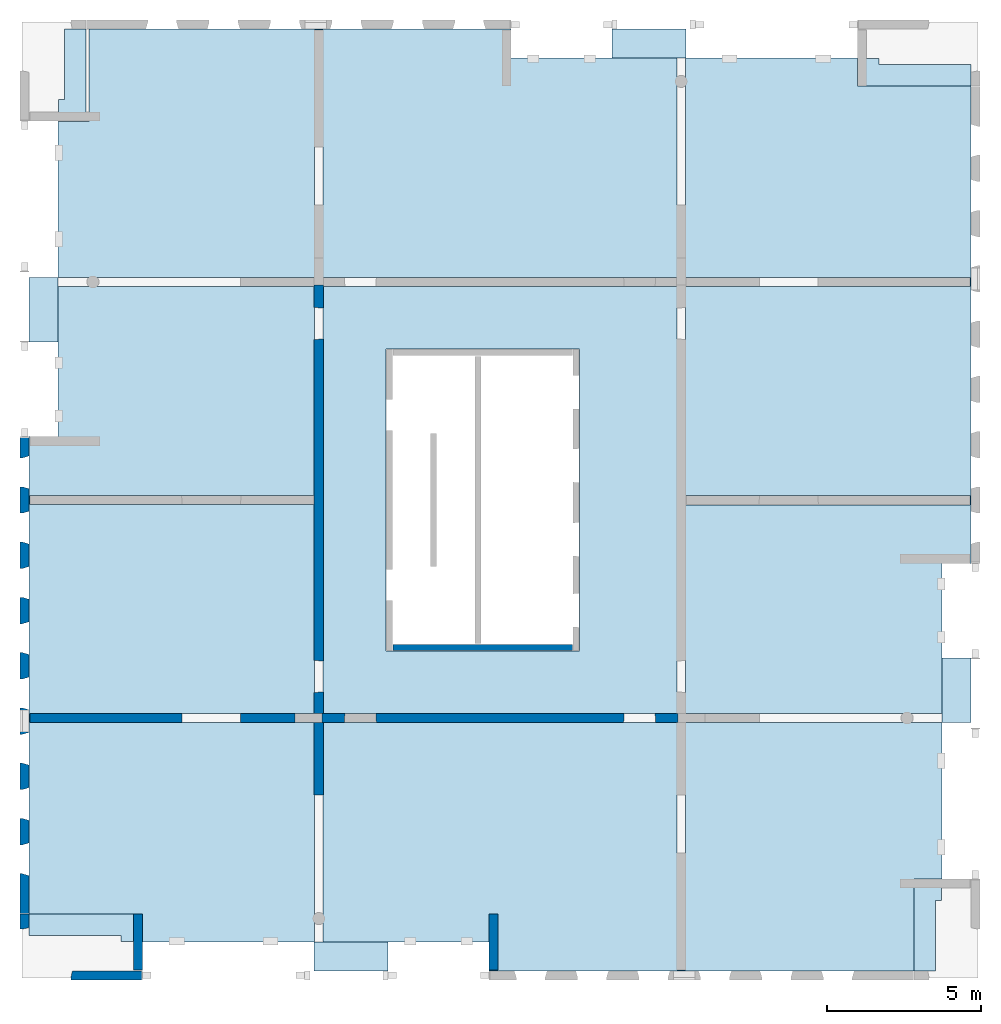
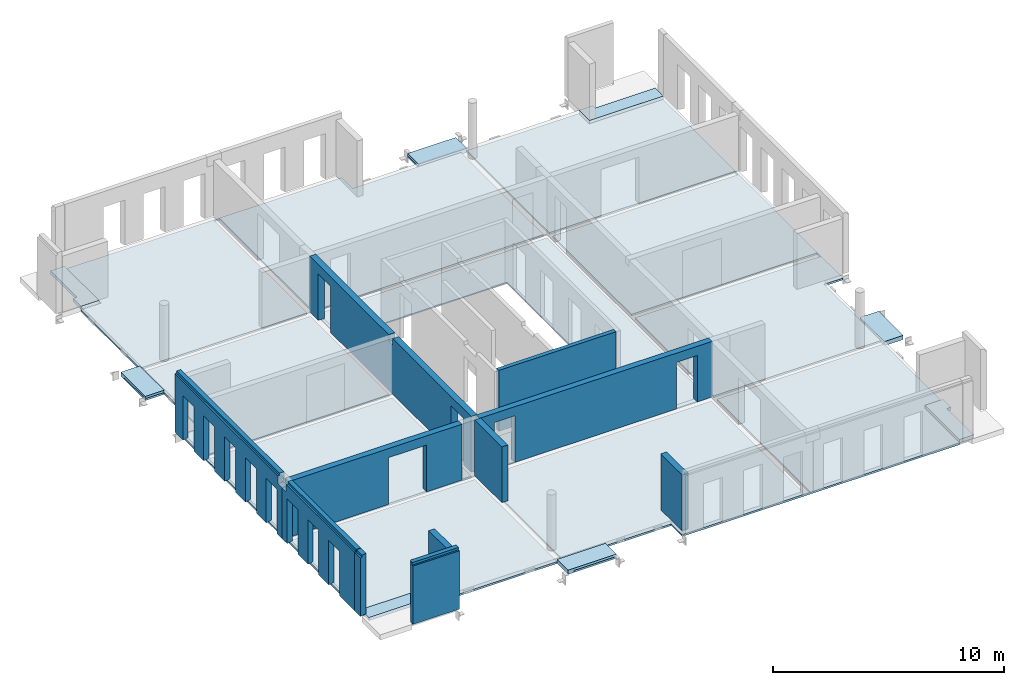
# One storey, part 2 of 6: 13 slabs, 11 walls, 23 openings.
"""IFC2X3 building model written with IfcOpenShell, lengths in millimetres."""

from ifc_helpers import new_model, entity, si_unit, converted_unit, derived_unit, direction, frame, frame_2d, origin, origin_2d_with_axis, place, context, subcontext, project, spatial, polyline, rectangle, outline, extrude, faceted_brep, material, layer, layer_set, layer_usage, type_object, element, save


model = new_model("IFC2X3")

# Units and contexts
model_context = context("Model", 3, precision=0.01, world=origin(), true_north=direction((6.12303176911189e-17, 1.0)))
body_context = subcontext(model_context, "Body", "Model", "MODEL_VIEW")
ifc_project = project(units=[si_unit("LENGTHUNIT", "METRE", prefix="MILLI"), si_unit("AREAUNIT", "SQUARE_METRE"), si_unit("VOLUMEUNIT", "CUBIC_METRE"), converted_unit("PLANEANGLEUNIT", "DEGREE", entity("IfcRatioMeasure", 0.0174532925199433), si_unit("PLANEANGLEUNIT", "RADIAN"), dimensions=[0, 0, 0, 0, 0, 0, 0]), si_unit("MASSUNIT", "GRAM", prefix="KILO"), derived_unit("MASSDENSITYUNIT", [(si_unit("MASSUNIT", "GRAM", prefix="KILO"), 1), (si_unit("LENGTHUNIT", "METRE"), -3)]), si_unit("TIMEUNIT", "SECOND"), si_unit("FREQUENCYUNIT", "HERTZ"), si_unit("THERMODYNAMICTEMPERATUREUNIT", "DEGREE_CELSIUS"), derived_unit("THERMALTRANSMITTANCEUNIT", [(si_unit("MASSUNIT", "GRAM", prefix="KILO"), 1), (si_unit("THERMODYNAMICTEMPERATUREUNIT", "KELVIN"), -1), (si_unit("TIMEUNIT", "SECOND"), -3)]), derived_unit("VOLUMETRICFLOWRATEUNIT", [(si_unit("LENGTHUNIT", "METRE"), 3), (si_unit("TIMEUNIT", "SECOND"), -1)]), si_unit("ELECTRICCURRENTUNIT", "AMPERE"), si_unit("ELECTRICVOLTAGEUNIT", "VOLT"), si_unit("POWERUNIT", "WATT"), si_unit("FORCEUNIT", "NEWTON", prefix="KILO"), si_unit("ILLUMINANCEUNIT", "LUX"), si_unit("LUMINOUSFLUXUNIT", "LUMEN"), si_unit("LUMINOUSINTENSITYUNIT", "CANDELA"), derived_unit("USERDEFINED", [(si_unit("MASSUNIT", "GRAM", prefix="KILO"), -1), (si_unit("LENGTHUNIT", "METRE"), -2), (si_unit("TIMEUNIT", "SECOND"), 3), (si_unit("LUMINOUSFLUXUNIT", "LUMEN"), 1)]), derived_unit("LINEARVELOCITYUNIT", [(si_unit("LENGTHUNIT", "METRE"), 1), (si_unit("TIMEUNIT", "SECOND"), -1)]), si_unit("PRESSUREUNIT", "PASCAL"), derived_unit("USERDEFINED", [(si_unit("LENGTHUNIT", "METRE"), -2), (si_unit("MASSUNIT", "GRAM", prefix="KILO"), 1), (si_unit("TIMEUNIT", "SECOND"), -2)])], contexts=[model_context])

# Site, building, storey
site_placement = place(None, origin())
site = spatial("IfcSite", under=ifc_project, at=site_placement, Name="Default", CompositionType="ELEMENT")
building_placement = place(site_placement, origin())
building = spatial("IfcBuilding", under=site, at=building_placement, Name="niet gebruiken", CompositionType="ELEMENT")
storey_placement = place(building_placement, frame((0.0, 0.0, 161820.0)))
storey = spatial("IfcBuildingStorey", under=building, at=storey_placement, Name="52 tweeënvijftigste verdieping", CompositionType="ELEMENT", Elevation=161820.0)

# Slabs
ifc_material_1 = material(Name="NLRS_f2_beton ihwg")
ifc_layer_1 = layer(ifc_material_1, 170.0)
ifc_layer_set_1 = layer_set([ifc_layer_1], Name="Floor:NLRS_23.21_FL_beton ihwg d=170_gen")
ifc_layer_usage_1 = layer_usage(ifc_layer_set_1, "AXIS3", "POSITIVE", 0.0)
slab_1_placement = place(storey_placement, origin())
element("IfcSlab", 1, at=slab_1_placement, inside=storey, material=ifc_layer_usage_1, Name="Floor:NLRS_23.21_FL_beton ihwg d=170_gen", ObjectType="Floor:NLRS_23.21_FL_beton ihwg d=170_gen", PredefinedType="FLOOR", context=body_context, shape_type="SweptSolid", body=[
    extrude(outline(polyline([(-1230.0, -366.666666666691), (-530.0, -366.666666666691), (-530.0, -166.666666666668), (1760.0, -166.666666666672), (1760.0, 533.333333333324), (-1230.0, 533.333333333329), (-1230.0, -366.666666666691)])), frame((127736.666666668, 31070.0, -90.0), z_axis=(0.0, 0.0, -1.0), x_axis=(0.0, 1.0, 0.0)), (0.0, 0.0, 1.0), 169.999999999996),
])
ifc_layer_usage_2 = layer_usage(ifc_layer_set_1, "AXIS3", "POSITIVE", 0.0)
slab_2_placement = place(storey_placement, origin())
element("IfcSlab", 2, at=slab_2_placement, inside=storey, material=ifc_layer_usage_2, Name="Floor:NLRS_23.21_FL_beton ihwg d=170_gen", ObjectType="Floor:NLRS_23.21_FL_beton ihwg d=170_gen", PredefinedType="FLOOR", context=body_context, shape_type="SweptSolid", body=[
    extrude(outline(polyline([(-1760.0, -533.33333333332), (1230.0, -533.33333333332), (1230.0, 366.666666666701), (530.0, 366.666666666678), (530.0, 166.666666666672), (-1760.0, 166.666666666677), (-1760.0, -533.33333333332)])), frame((155763.333333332, 3930.0, -90.0), z_axis=(0.0, 0.0, -1.0), x_axis=(0.0, 1.0, 0.0)), (0.0, 0.0, 1.0), 169.999999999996),
])
ifc_layer_usage_3 = layer_usage(ifc_layer_set_1, "AXIS3", "POSITIVE", 0.0)
slab_3_placement = place(storey_placement, origin())
element("IfcSlab", 3, at=slab_3_placement, inside=storey, material=ifc_layer_usage_3, Name="Floor:NLRS_23.21_FL_beton ihwg d=170_gen", ObjectType="Floor:NLRS_23.21_FL_beton ihwg d=170_gen", PredefinedType="FLOOR", context=body_context, shape_type="SweptSolid", body=[
    extrude(outline(polyline([(-166.666666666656, -2226.66666666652), (533.333333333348, -2226.66666666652), (533.333333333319, 1463.3333333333), (-366.666666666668, 1463.33333333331), (-366.666666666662, 763.333333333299), (-166.666666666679, 763.333333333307), (-166.666666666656, -2226.66666666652)])), frame((128646.666666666, 3486.66666667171, -90.0), z_axis=(0.0, 0.0, -1.0), x_axis=(0.0, 1.0, 0.0)), (0.0, 0.0, 1.0), 169.999999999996),
])
ifc_layer_usage_4 = layer_usage(ifc_layer_set_1, "AXIS3", "POSITIVE", 0.0)
slab_4_placement = place(storey_placement, origin())
element("IfcSlab", 4, at=slab_4_placement, inside=storey, material=ifc_layer_usage_4, Name="Floor:NLRS_23.21_FL_beton ihwg d=170_gen", ObjectType="Floor:NLRS_23.21_FL_beton ihwg d=170_gen", PredefinedType="FLOOR", context=body_context, shape_type="SweptSolid", body=[
    extrude(outline(polyline([(-533.33333333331, -1463.33333333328), (366.666666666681, -1463.33333333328), (366.666666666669, -763.333333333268), (166.666666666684, -763.333333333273), (166.666666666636, 2226.66666666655), (-533.333333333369, 2226.66666666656), (-533.33333333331, -1463.33333333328)])), frame((154853.333333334, 31513.3333333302, -90.0), z_axis=(0.0, 0.0, -1.0), x_axis=(0.0, 1.0, 0.0)), (0.0, 0.0, 1.0), 169.999999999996),
])

# Slab, opening
ifc_material_2 = material(Name="NLRS_f2_beton prefab")
ifc_layer_2 = layer(ifc_material_2, 60.0)
ifc_layer_set_2 = layer_set([ifc_layer_2], Name="Floor:NLRS_23.21_FL_breedplaat d=60_gen")
ifc_layer_usage_5 = layer_usage(ifc_layer_set_2, "AXIS3", "POSITIVE", 0.0)
slab_5_placement = place(storey_placement, frame((135990.0, 10540.0, -320.0)))
slab_5 = element("IfcSlab", 5, at=slab_5_placement, inside=storey, material=ifc_layer_usage_5, Name="Floor:NLRS_23.21_FL_breedplaat d=60_gen", ObjectType="Floor:NLRS_23.21_FL_breedplaat d=60_gen", PredefinedType="FLOOR", context=body_context, shape_type="SweptSolid", body=[
    extrude(rectangle(XDim=13919.9999999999, YDim=11520.0, at=frame_2d((0.0, 0.0), x_axis=(0.0, -1.0))), frame((5760.0, 6960.0, 60.0), z_axis=(0.0, 0.0, -1.0), x_axis=(-1.0, 0.0, 0.0)), (0.0, 0.0, 1.0), 59.9999999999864),
])
opening_1_placement = place(slab_5_placement, frame((5200.0, 6960.0, 60.0)))
element("IfcOpeningElement", 6, at=opening_1_placement, cuts=slab_5, Name="Floor:NLRS_23.21_FL_breedplaat d=60_gen:2", ObjectType="Opening", context=body_context, shape_type="SweptSolid", body=[
    extrude(rectangle(XDim=9820.0, YDim=6299.99999999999, at=origin_2d_with_axis()), frame((0.0, 0.0, 0.0), z_axis=(0.0, 0.0, -1.0), x_axis=(0.0, -1.0, 0.0)), (0.0, 0.0, 1.0), 59.9999999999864),
])

# Slabs
ifc_layer_3 = layer(ifc_material_2, 100.0)
ifc_layer_set_3 = layer_set([ifc_layer_3], Name="Floor:NLRS_23.21_FL_breedplaat d=100_gen")
ifc_layer_usage_6 = layer_usage(ifc_layer_set_3, "AXIS3", "POSITIVE", 0.0)
slab_6_placement = place(storey_placement, frame((126420.0, 2170.0, -360.0)))
element("IfcSlab", 7, at=slab_6_placement, inside=storey, material=ifc_layer_usage_6, Name="Floor:NLRS_23.21_FL_breedplaat d=100_gen", ObjectType="Floor:NLRS_23.21_FL_breedplaat d=100_gen", PredefinedType="FLOOR", context=body_context, shape_type="SweptSolid", body=[
    extrude(outline(polyline([(14385.0, 7240.0), (14385.0, 12330.0), (13380.0, 12330.0), (13380.0, 15330.0), (-360.0, 15330.0), (-360.0, 14385.0), (-3640.0, 14385.0), (-3640.0, 15330.0), (-5760.0, 15330.0), (-5760.0, 7240.0), (5760.0, 7240.0), (5760.0, 15300.0), (6040.0, 15300.0), (6040.0, 7240.0), (14385.0, 7240.0)])), frame((15330.0, 15330.0, 100.0), z_axis=(0.0, 0.0, -1.0), x_axis=(-1.0, 0.0, 0.0)), (0.0, 0.0, 1.0), 100.000000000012),
])
slab_7_placement = place(storey_placement, frame((126420.0, 2170.0, -360.0)))
element("IfcSlab", 8, at=slab_7_placement, inside=storey, material=ifc_layer_usage_6, Name="Floor:NLRS_23.21_FL_breedplaat d=100_gen:2", ObjectType="Floor:NLRS_23.21_FL_breedplaat d=100_gen", PredefinedType="FLOOR", context=body_context, shape_type="SweptSolid", body=[
    extrude(outline(polyline([(15330.0, 2060.0), (14385.0, 2060.0), (14385.0, 5140.0), (15330.0, 5140.0), (15330.0, 6960.0), (6040.0, 6960.0), (6040.0, 140.0), (15300.0, 140.0), (15300.0, -140.0), (6040.0, -140.0), (6040.0, -6960.0), (15300.0, -6960.0), (15300.0, -7240.0), (6040.0, -7240.0), (6040.0, -14385.0), (11640.0, -14385.0), (11640.0, -13480.0), (15330.0, -13480.0), (15330.0, 2060.0)])), frame((15330.0, 15330.0, 100.0), z_axis=(0.0, 0.0, -1.0), x_axis=(-1.0, 0.0, 0.0)), (0.0, 0.0, 1.0), 100.000000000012),
])
slab_8_placement = place(storey_placement, frame((126420.0, 2170.0, -360.0)))
element("IfcSlab", 9, at=slab_8_placement, inside=storey, material=ifc_layer_usage_6, Name="Floor:NLRS_23.21_FL_breedplaat d=100_gen:3", ObjectType="Floor:NLRS_23.21_FL_breedplaat d=100_gen", PredefinedType="FLOOR", context=body_context, shape_type="SweptSolid", body=[
    extrude(outline(polyline([(360.0, -15330.0), (360.0, -14385.0), (3640.0, -14385.0), (3640.0, -15330.0), (5760.0, -15330.0), (5760.0, -7240.0), (-5760.0, -7240.0), (-5760.0, -15300.0), (-6040.0, -15300.0), (-6040.0, -7240.0), (-14385.0, -7240.0), (-14385.0, -12340.0), (-13480.0, -12340.0), (-13480.0, -15330.0), (360.0, -15330.0)])), frame((15330.0, 15330.0, 100.0), z_axis=(0.0, 0.0, -1.0), x_axis=(-1.0, 0.0, 0.0)), (0.0, 0.0, 1.0), 100.000000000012),
])
slab_9_placement = place(storey_placement, frame((126420.0, 2170.0, -360.0)))
element("IfcSlab", 10, at=slab_9_placement, inside=storey, material=ifc_layer_usage_6, Name="Floor:NLRS_23.21_FL_breedplaat d=100_gen:4", ObjectType="Floor:NLRS_23.21_FL_breedplaat d=100_gen", PredefinedType="FLOOR", context=body_context, shape_type="SweptSolid", body=[
    extrude(outline(polyline([(-15330.0, -2060.0), (-14385.0, -2060.0), (-14385.0, -5140.0), (-15330.0, -5140.0), (-15330.0, -6960.0), (-6040.0, -6960.0), (-6040.0, -160.0), (-15300.0, -160.0), (-15300.0, 140.0), (-6040.0, 140.0), (-6040.0, 6960.0), (-15300.0, 6960.0), (-15300.0, 7240.0), (-6040.0, 7240.0), (-6040.0, 14385.0), (-11640.0, 14385.0), (-11640.0, 13480.0), (-15330.0, 13480.0), (-15330.0, -2060.0)])), frame((15330.0, 15330.0, 100.0), z_axis=(0.0, 0.0, -1.0), x_axis=(-1.0, 0.0, 0.0)), (0.0, 0.0, 1.0), 100.000000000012),
])
ifc_layer_4 = layer(ifc_material_1, 220.0)
ifc_layer_set_4 = layer_set([ifc_layer_4], Name="Floor:NLRS_23.21_FL_beton ihwg d=220_gen")
ifc_layer_usage_7 = layer_usage(ifc_layer_set_4, "AXIS3", "POSITIVE", 0.0)
slab_10_placement = place(storey_placement, origin())
element("IfcSlab", 11, at=slab_10_placement, inside=storey, material=ifc_layer_usage_7, Name="Floor:NLRS_23.21_FL_beton ihwg d=220_gen", ObjectType="Floor:NLRS_23.21_FL_beton ihwg d=220_gen", PredefinedType="FLOOR", context=body_context, shape_type="SweptSolid", body=[
    extrude(outline(polyline([(-113.333333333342, -1510.0), (6.66666666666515, -1510.0), (6.66666666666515, 610.0), (106.666666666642, 610.0), (106.666666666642, 900.0), (-113.333333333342, 900.0), (-113.333333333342, -1510.0)])), frame((136600.0, 2170.0, -253.333333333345), z_axis=(0.0, 1.0, 0.0), x_axis=(0.0, 0.0, -1.0)), (0.0, 0.0, 1.0), 944.999999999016),
])
ifc_layer_usage_8 = layer_usage(ifc_layer_set_4, "AXIS3", "POSITIVE", 0.0)
slab_11_placement = place(storey_placement, origin())
element("IfcSlab", 12, at=slab_11_placement, inside=storey, material=ifc_layer_usage_8, Name="Floor:NLRS_23.21_FL_beton ihwg d=220_gen", ObjectType="Floor:NLRS_23.21_FL_beton ihwg d=220_gen", PredefinedType="FLOOR", context=body_context, shape_type="SweptSolid", body=[
    extrude(outline(polyline([(-127.499999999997, -601.249999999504), (-7.49999999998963, -601.249999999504), (92.4999999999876, -601.249999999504), (92.4999999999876, -591.250000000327), (92.4999999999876, -311.250000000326), (-7.49999999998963, -311.250000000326), (-7.49999999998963, 1508.74999999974), (-127.499999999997, 1508.74999999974), (-127.499999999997, -601.249999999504)])), frame((156135.0, 10851.2500000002, -267.5), z_axis=(1.0, 0.0, 0.0), x_axis=(0.0, 0.0, -1.0)), (0.0, 0.0, 1.0), 944.999999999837),
])
ifc_layer_usage_9 = layer_usage(ifc_layer_set_4, "AXIS3", "POSITIVE", 0.0)
slab_12_placement = place(storey_placement, origin())
element("IfcSlab", 13, at=slab_12_placement, inside=storey, material=ifc_layer_usage_9, Name="Floor:NLRS_23.21_FL_beton ihwg d=220_gen", ObjectType="Floor:NLRS_23.21_FL_beton ihwg d=220_gen", PredefinedType="FLOOR", context=body_context, shape_type="SweptSolid", body=[
    extrude(outline(polyline([(-127.499999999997, -676.250000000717), (-7.49999999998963, -676.250000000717), (92.4999999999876, -676.250000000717), (92.4999999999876, -666.24999999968), (92.4999999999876, -386.249999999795), (-7.49999999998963, -386.249999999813), (-7.49999999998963, 1733.75000000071), (-127.499999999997, 1733.75000000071), (-127.499999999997, -676.250000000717)])), frame((147123.75, 31885.0, -267.5), z_axis=(0.0, 1.0, 0.0), x_axis=(0.0, 0.0, -1.0)), (0.0, 0.0, 1.0), 944.999999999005),
])
ifc_layer_usage_10 = layer_usage(ifc_layer_set_4, "AXIS3", "POSITIVE", 0.0)
slab_13_placement = place(storey_placement, origin())
element("IfcSlab", 14, at=slab_13_placement, inside=storey, material=ifc_layer_usage_10, Name="Floor:NLRS_23.21_FL_beton ihwg d=220_gen", ObjectType="Floor:NLRS_23.21_FL_beton ihwg d=220_gen", PredefinedType="FLOOR", context=body_context, shape_type="SweptSolid", body=[
    extrude(outline(polyline([(-113.333333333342, -1310.0), (6.66666666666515, -1310.0), (6.66666666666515, 510.0), (106.666666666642, 510.0), (106.666666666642, 800.0), (-113.333333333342, 800.0), (-113.333333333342, -1310.0)])), frame((126420.0, 23950.0, -253.333333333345), z_axis=(1.0, 0.0, 0.0), x_axis=(0.0, 0.0, -1.0)), (0.0, 0.0, 1.0), 944.999999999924),
])

# Walls
ifc_layer_5 = layer(ifc_material_2, 200.0)
ifc_layer_set_5 = layer_set([ifc_layer_5], Name="Basic Wall:NLRS_22.21_WA_beton prefab d=200_gen")
ifc_layer_usage_11 = layer_usage(ifc_layer_set_5, "AXIS2", "NEGATIVE", 100.0)
wall_type_1 = type_object("IfcWallType", Name="Basic Wall:NLRS_22.21_WA_beton prefab d=200_gen", PredefinedType="STANDARD", material=ifc_layer_set_5)
wall_1_placement = place(storey_placement, frame((138270.0, 12700.0, -50.0)))
element("IfcWallStandardCase", 15, at=wall_1_placement, inside=storey, type_object=wall_type_1, material=ifc_layer_usage_11, Name="Basic Wall:NLRS_22.21_WA_beton prefab d=200_gen", ObjectType="Basic Wall:NLRS_22.21_WA_beton prefab d=200_gen", context=body_context, shape_type="SweptSolid", body=[
    extrude(rectangle(XDim=5839.99999999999, YDim=199.999999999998, at=frame_2d((2919.99999999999, -6.82121026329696e-13), x_axis=(-1.0, 0.0))), origin(), (0.0, 0.0, 1.0), 3220.00000000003),
])
ifc_layer_6 = layer(ifc_material_2, 300.0)
ifc_layer_set_6 = layer_set([ifc_layer_6], Name="Basic Wall:NLRS_22.21_WA_beton prefab d=300_gen")
ifc_layer_usage_12 = layer_usage(ifc_layer_set_6, "AXIS2", "NEGATIVE", 150.0)
wall_type_2 = type_object("IfcWallType", Name="Basic Wall:NLRS_22.21_WA_beton prefab d=300_gen", PredefinedType="STANDARD", material=ifc_layer_set_6)
wall_2_placement = place(storey_placement, frame((135850.0, 10250.0, -60.0), z_axis=(0.0, 0.0, 1.0), x_axis=(0.0, -1.0, 0.0)))
element("IfcWallStandardCase", 16, at=wall_2_placement, inside=storey, type_object=wall_type_2, material=ifc_layer_usage_12, Name="Basic Wall:NLRS_22.21_WA_beton prefab d=300_gen", ObjectType="Basic Wall:NLRS_22.21_WA_beton prefab d=300_gen", context=body_context, shape_type="SweptSolid", body=[
    extrude(rectangle(XDim=2350.00000000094, YDim=300.000000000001, at=frame_2d((1175.00000000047, 2.61479726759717e-12), x_axis=(-1.0, 0.0))), origin(), (0.0, 0.0, 1.0), 2939.99999999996),
])

# Wall, openings
ifc_layer_usage_13 = layer_usage(ifc_layer_set_6, "AXIS2", "NEGATIVE", 150.0)
wall_3_placement = place(storey_placement, frame((135950.003540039, 10400.0, -60.0)))
wall_3 = element("IfcWallStandardCase", 17, at=wall_3_placement, inside=storey, type_object=wall_type_2, material=ifc_layer_usage_13, Name="Basic Wall:NLRS_22.21_WA_beton prefab d=300_gen", ObjectType="Basic Wall:NLRS_22.21_WA_beton prefab d=300_gen", context=body_context, shape_type="SweptSolid", body=[
    extrude(rectangle(XDim=11599.9964599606, YDim=300.000000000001, at=frame_2d((5799.9982299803, 1.70530256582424e-13), x_axis=(-1.0, 0.0))), origin(), (0.0, 0.0, 1.0), 2939.99999999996),
])
opening_2_placement = place(wall_3_placement, frame((731.996459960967, -150.0, -10.0)))
element("IfcOpeningElement", 18, at=opening_2_placement, cuts=wall_3, Name="Basic Wall:NLRS_22.21_WA_beton prefab d=300_gen", ObjectType="Opening", context=body_context, shape_type="Brep", body=[
    faceted_brep([(0.0, 0.0, 2466.0), (18.0, 300.0, 2448.0), (18.0, 300.0, 0.0), (0.0, 0.0, 0.0), (1024.0, 300.0, 0.0), (1042.0, 0.0, 0.0), (1024.0, 300.0, 2448.0), (1042.0, 0.0, 2466.0)], [[[0, 1, 2, 3]], [[3, 2, 4, 5]], [[6, 4, 2, 1]], [[7, 0, 3, 5]], [[7, 6, 1, 0]], [[5, 4, 6, 7]]]),
])
opening_3_placement = place(wall_3_placement, frame((9825.99645996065, -150.0, -10.0)))
element("IfcOpeningElement", 19, at=opening_3_placement, cuts=wall_3, Name="Basic Wall:NLRS_22.21_WA_beton prefab d=300_gen", ObjectType="Opening", context=body_context, shape_type="Brep", body=[
    faceted_brep([(0.0, 0.0, 2466.0), (18.0, 300.0, 2448.0), (18.0, 300.0, 0.0), (0.0, 0.0, 0.0), (1024.0, 300.0, 0.0), (1042.0, 0.0, 0.0), (1024.0, 300.0, 2448.0), (1042.0, 0.0, 2466.0)], [[[0, 1, 2, 3]], [[3, 2, 4, 5]], [[6, 4, 2, 1]], [[7, 0, 3, 5]], [[7, 6, 1, 0]], [[5, 4, 6, 7]]]),
])

# Wall, opening
ifc_layer_usage_14 = layer_usage(ifc_layer_set_6, "AXIS2", "NEGATIVE", 150.0)
wall_4_placement = place(storey_placement, frame((126440.0, 10400.0, -70.0)))
wall_4 = element("IfcWallStandardCase", 20, at=wall_4_placement, inside=storey, type_object=wall_type_2, material=ifc_layer_usage_14, Name="Basic Wall:NLRS_22.21_WA_beton prefab d=300_gen", ObjectType="Basic Wall:NLRS_22.21_WA_beton prefab d=300_gen", context=body_context, shape_type="SweptSolid", body=[
    extrude(rectangle(XDim=8630.00354003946, YDim=300.000000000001, at=frame_2d((4315.00177001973, -2.70006239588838e-13), x_axis=(-1.0, 0.0))), origin(), (0.0, 0.0, 1.0), 2949.99999999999),
])
opening_4_placement = place(wall_4_placement, origin())
element("IfcOpeningElement", 21, at=opening_4_placement, cuts=wall_4, Name="Basic Wall:NLRS_22.21_WA_beton prefab d=300_gen", ObjectType="Opening", context=body_context, shape_type="SweptSolid", body=[
    extrude(rectangle(XDim=2469.99999999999, YDim=1900.0, at=frame_2d((1.73940861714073e-11, -8.69704308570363e-12), x_axis=(1.0, 0.0))), frame((5910.0, -150.0, 1235.0), z_axis=(0.0, 1.0, 0.0), x_axis=(0.0, 0.0, -1.0)), (0.0, 0.0, 1.0), 300.000000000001),
])

# Wall, openings
ifc_layer_usage_15 = layer_usage(ifc_layer_set_6, "AXIS2", "NEGATIVE", 150.0)
wall_5_placement = place(storey_placement, frame((135850.0, 24500.0, -60.0), z_axis=(0.0, 0.0, 1.0), x_axis=(0.0, -1.0, 0.0)))
wall_5 = element("IfcWallStandardCase", 22, at=wall_5_placement, inside=storey, type_object=wall_type_2, material=ifc_layer_usage_15, Name="Basic Wall:NLRS_22.21_WA_beton prefab d=300_gen", ObjectType="Basic Wall:NLRS_22.21_WA_beton prefab d=300_gen", context=body_context, shape_type="SweptSolid", body=[
    extrude(rectangle(XDim=13949.999999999, YDim=300.000000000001, at=frame_2d((6974.99999999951, 4.2632564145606e-14), x_axis=(-1.0, 0.0))), origin(), (0.0, 0.0, 1.0), 2939.99999999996),
])
opening_5_placement = place(wall_5_placement, frame((13268.0, -150.0, -10.0)))
element("IfcOpeningElement", 23, at=opening_5_placement, cuts=wall_5, Name="Basic Wall:NLRS_22.21_WA_beton prefab d=300_gen", ObjectType="Opening", context=body_context, shape_type="Brep", body=[
    faceted_brep([(-1042.0, 0.0, 2466.0), (-1024.0, 300.0, 2448.0), (-1024.0, 300.0, 0.0), (-1042.0, 0.0, 0.0), (-18.0, 300.0, 0.0), (0.0, 0.0, 0.0), (-18.0, 300.0, 2448.0), (0.0, 0.0, 2466.0)], [[[0, 1, 2, 3]], [[3, 2, 4, 5]], [[6, 4, 2, 1]], [[7, 0, 3, 5]], [[7, 6, 1, 0]], [[5, 4, 6, 7]]]),
])
opening_6_placement = place(wall_5_placement, frame((1774.0, -150.0, -10.0)))
element("IfcOpeningElement", 24, at=opening_6_placement, cuts=wall_5, Name="Basic Wall:NLRS_22.21_WA_beton prefab d=300_gen", ObjectType="Opening", context=body_context, shape_type="Brep", body=[
    faceted_brep([(-1042.0, 0.0, 2466.0), (-1024.0, 300.0, 2448.0), (-1024.0, 300.0, 0.0), (-1042.0, 0.0, 0.0), (-18.0, 300.0, 0.0), (0.0, 0.0, 0.0), (-18.0, 300.0, 2448.0), (0.0, 0.0, 2466.0)], [[[0, 1, 2, 3]], [[3, 2, 4, 5]], [[6, 4, 2, 1]], [[7, 0, 3, 5]], [[7, 6, 1, 0]], [[5, 4, 6, 7]]]),
])
opening_7_placement = place(wall_5_placement, origin())
element("IfcOpeningElement", 25, at=opening_7_placement, cuts=wall_5, Name="Basic Wall:NLRS_22.21_WA_beton prefab d=300_gen", ObjectType="Opening", context=body_context, shape_type="SweptSolid", body=[
    extrude(rectangle(XDim=350.000000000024, YDim=339.999999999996, at=frame_2d((0.0, 0.0), x_axis=(0.0, 1.0))), frame((7000.0, 150.0, 2765.0), z_axis=(0.0, -1.0, 0.0), x_axis=(-1.0, 0.0, 0.0)), (0.0, 0.0, 1.0), 300.0),
])

# Walls
ifc_layer_usage_16 = layer_usage(ifc_layer_set_6, "AXIS2", "NEGATIVE", 150.0)
wall_6_placement = place(storey_placement, frame((129960.0, 4020.0, -70.0), z_axis=(0.0, 0.0, 1.0), x_axis=(0.0, -1.0, 0.0)))
element("IfcWallStandardCase", 26, at=wall_6_placement, inside=storey, type_object=wall_type_2, material=ifc_layer_usage_16, Name="Basic Wall:NLRS_22.21_WA_beton prefab d=300_gen", ObjectType="Basic Wall:NLRS_22.21_WA_beton prefab d=300_gen", context=body_context, shape_type="SweptSolid", body=[
    extrude(rectangle(XDim=1829.99999999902, YDim=300.000000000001, at=frame_2d((914.99999999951, -2.07478478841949e-12), x_axis=(-1.0, 0.0))), origin(), (0.0, 0.0, 1.0), 2949.99999999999),
])
ifc_layer_usage_17 = layer_usage(ifc_layer_set_6, "AXIS2", "NEGATIVE", 150.0)
wall_7_placement = place(storey_placement, frame((141540.0, 4020.0, -70.0), z_axis=(0.0, 0.0, 1.0), x_axis=(0.0, -1.0, 0.0)))
element("IfcWallStandardCase", 27, at=wall_7_placement, inside=storey, type_object=wall_type_2, material=ifc_layer_usage_17, Name="Basic Wall:NLRS_22.21_WA_beton prefab d=300_gen", ObjectType="Basic Wall:NLRS_22.21_WA_beton prefab d=300_gen", context=body_context, shape_type="SweptSolid", body=[
    extrude(rectangle(XDim=1829.99999999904, YDim=300.000000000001, at=frame_2d((914.99999999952, -2.07478478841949e-12), x_axis=(-1.0, 0.0))), origin(), (0.0, 0.0, 1.0), 2949.99999999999),
])

# Wall, openings
ifc_layer_7 = layer(ifc_material_2, 300.0)
ifc_layer_set_7 = layer_set([ifc_layer_7], Name="Basic Wall:NLRS_21.21_WA_beton prefab d=300/320_gen")
ifc_layer_usage_18 = layer_usage(ifc_layer_set_7, "AXIS2", "NEGATIVE", 150.0)
wall_type_3 = type_object("IfcWallType", Name="Basic Wall:NLRS_21.21_WA_beton prefab d=300/320_gen", PredefinedType="STANDARD", material=ifc_layer_set_7)
wall_8_placement = place(storey_placement, frame((126270.0, 4040.0, -50.0), z_axis=(0.0, 0.0, 1.0), x_axis=(0.0, 1.0, 0.0)))
wall_8 = element("IfcWallStandardCase", 28, at=wall_8_placement, inside=storey, type_object=wall_type_3, material=ifc_layer_usage_18, Name="Basic Wall:NLRS_21.21_WA_beton prefab d=300/320_gen", ObjectType="Basic Wall:NLRS_21.21_WA_beton prefab d=300/320_gen", context=body_context, shape_type="SweptSolid", body=[
    extrude(rectangle(XDim=6249.99999999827, YDim=300.000000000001, at=frame_2d((3124.99999999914, 2.8705926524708e-12), x_axis=(-1.0, 0.0))), origin(), (0.0, 0.0, 1.0), 3199.99999999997),
])
opening_8_placement = place(wall_8_placement, frame((1225.0, 150.0, -20.0)))
element("IfcOpeningElement", 29, at=opening_8_placement, cuts=wall_8, Name="Basic Wall:NLRS_21.21_WA_beton prefab d=300/320_gen", ObjectType="Opening", context=body_context, shape_type="Brep", body=[
    faceted_brep([(0.0, -300.0, 2405.0), (0.0, -300.0, 0.0), (1070.0, -300.0, 0.0), (1070.0, -300.0, 2405.0), (1005.0, -81.0, 2370.0), (65.0, -81.0, 2370.0), (1005.0, -81.0, 0.0), (65.0, -81.0, 0.0), (65.0, 0.0, 0.0), (1005.0, 0.0, 0.0), (65.0, 0.0, 2370.0), (1005.0, 0.0, 2370.0)], [[[0, 1, 2, 3]], [[3, 4, 5, 0]], [[2, 6, 4, 3]], [[1, 7, 8, 9, 6, 2]], [[0, 5, 7, 1]], [[10, 11, 9, 8]], [[10, 5, 4, 11]], [[11, 4, 6, 9]], [[8, 7, 5, 10]]]),
])
opening_9_placement = place(wall_8_placement, frame((3025.0, 150.0, -20.0)))
element("IfcOpeningElement", 30, at=opening_9_placement, cuts=wall_8, Name="Basic Wall:NLRS_21.21_WA_beton prefab d=300/320_gen", ObjectType="Opening", context=body_context, shape_type="Brep", body=[
    faceted_brep([(0.0, -300.0, 2405.0), (0.0, -300.0, 0.0), (1070.0, -300.0, 0.0), (1070.0, -300.0, 2405.0), (1005.0, -81.0, 2370.0), (65.0, -81.0, 2370.0), (1005.0, -81.0, 0.0), (65.0, -81.0, 0.0), (65.0, 0.0, 0.0), (1005.0, 0.0, 0.0), (65.0, 0.0, 2370.0), (1005.0, 0.0, 2370.0)], [[[0, 1, 2, 3]], [[3, 4, 5, 0]], [[2, 6, 4, 3]], [[1, 7, 8, 9, 6, 2]], [[0, 5, 7, 1]], [[10, 11, 9, 8]], [[10, 5, 4, 11]], [[11, 4, 6, 9]], [[8, 7, 5, 10]]]),
])
opening_10_placement = place(wall_8_placement, frame((4825.0, 150.0, -20.0)))
element("IfcOpeningElement", 31, at=opening_10_placement, cuts=wall_8, Name="Basic Wall:NLRS_21.21_WA_beton prefab d=300/320_gen", ObjectType="Opening", context=body_context, shape_type="Brep", body=[
    faceted_brep([(0.0, -300.0, 2405.0), (0.0, -300.0, 0.0), (1070.0, -300.0, 0.0), (1070.0, -300.0, 2405.0), (1005.0, -81.0, 2370.0), (65.0, -81.0, 2370.0), (1005.0, -81.0, 0.0), (65.0, -81.0, 0.0), (65.0, 0.0, 0.0), (1005.0, 0.0, 0.0), (65.0, 0.0, 2370.0), (1005.0, 0.0, 2370.0)], [[[0, 1, 2, 3]], [[3, 4, 5, 0]], [[2, 6, 4, 3]], [[1, 7, 8, 9, 6, 2]], [[0, 5, 7, 1]], [[10, 11, 9, 8]], [[10, 5, 4, 11]], [[11, 4, 6, 9]], [[8, 7, 5, 10]]]),
])
opening_11_placement = place(wall_8_placement, origin())
element("IfcOpeningElement", 32, at=opening_11_placement, cuts=wall_8, Name="Basic Wall:NLRS_21.21_WA_beton prefab d=300/320_gen", ObjectType="Recess", context=body_context, shape_type="SweptSolid", body=[
    extrude(rectangle(XDim=124.999999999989, YDim=27940.0, at=frame_2d((0.0, 2.72848410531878e-12), x_axis=(1.0, 0.0))), frame((13460.0, 66.0, 3137.49999999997), z_axis=(0.0, 1.0, 0.0), x_axis=(0.0, 0.0, -1.0)), (0.0, 0.0, 1.0), 84.0000000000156),
])
opening_12_placement = place(wall_8_placement, origin())
element("IfcOpeningElement", 33, at=opening_12_placement, cuts=wall_8, Name="Basic Wall:NLRS_21.21_WA_beton prefab d=300/320_gen", ObjectType="Opening", context=body_context, shape_type="SweptSolid", body=[
    extrude(rectangle(XDim=515.000000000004, YDim=345.0, at=origin_2d_with_axis()), frame((6077.49999999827, 150.0, 2942.49999999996), z_axis=(0.0, -1.0, 0.0), x_axis=(0.0, 0.0, 1.0)), (0.0, 0.0, 1.0), 300.0),
])

ifc_layer_usage_19 = layer_usage(ifc_layer_set_7, "AXIS2", "NEGATIVE", 150.0)
wall_9_placement = place(storey_placement, frame((130110.0, 2020.0, -50.0), z_axis=(0.0, 0.0, 1.0), x_axis=(-1.0, 0.0, 0.0)))
wall_9 = element("IfcWallStandardCase", 34, at=wall_9_placement, inside=storey, type_object=wall_type_3, material=ifc_layer_usage_19, Name="Basic Wall:NLRS_21.21_WA_beton prefab d=300/320_gen", ObjectType="Basic Wall:NLRS_21.21_WA_beton prefab d=300/320_gen", context=body_context, shape_type="SweptSolid", body=[
    extrude(rectangle(XDim=2330.00000000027, YDim=300.0, at=frame_2d((1165.00000000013, 8.5265128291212e-14), x_axis=(-1.0, 0.0))), origin(), (0.0, 0.0, 1.0), 3199.99999999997),
])
opening_13_placement = place(wall_9_placement, frame((2330.0, 69.0, -20.0)))
element("IfcOpeningElement", 35, at=opening_13_placement, cuts=wall_9, Name="Basic Wall:NLRS_21.21_WA_beton prefab d=300/320_gen", ObjectType="Opening", context=body_context, shape_type="Brep", body=[
    faceted_brep([(0.0, -319.0, 3240.0), (0.0, 0.0, 3240.0), (-65.0, -319.0, 3240.0), (0.0, -319.0, 0.0), (-65.0, -319.0, 0.0), (0.0, 0.0, 0.0)], [[[0, 1, 2]], [[3, 4, 5]], [[2, 4, 3, 0]], [[0, 3, 5, 1]], [[1, 5, 4, 2]]]),
])
opening_14_placement = place(wall_9_placement, origin())
element("IfcOpeningElement", 36, at=opening_14_placement, cuts=wall_9, Name="Basic Wall:NLRS_21.21_WA_beton prefab d=300/320_gen", ObjectType="Recess", context=body_context, shape_type="SweptSolid", body=[
    extrude(rectangle(XDim=124.999999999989, YDim=27940.0, at=origin_2d_with_axis()), frame((-11640.0, 66.0, 3137.50000000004), z_axis=(0.0, 1.0, 0.0), x_axis=(0.0, 0.0, -1.0)), (0.0, 0.0, 1.0), 84.0000000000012),
])

ifc_layer_usage_20 = layer_usage(ifc_layer_set_7, "AXIS2", "NEGATIVE", 150.0)
wall_10_placement = place(storey_placement, frame((126270.0, 3530.0, -50.0), z_axis=(0.0, 0.0, 1.0), x_axis=(0.0, 1.0, 0.0)))
wall_10 = element("IfcWallStandardCase", 37, at=wall_10_placement, inside=storey, type_object=wall_type_3, material=ifc_layer_usage_20, Name="Basic Wall:NLRS_21.21_WA_beton prefab d=300/320_gen", ObjectType="Basic Wall:NLRS_21.21_WA_beton prefab d=300/320_gen", context=body_context, shape_type="SweptSolid", body=[
    extrude(rectangle(XDim=489.999999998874, YDim=300.000000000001, at=frame_2d((244.999999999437, 2.20268248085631e-12), x_axis=(-1.0, 0.0))), origin(), (0.0, 0.0, 1.0), 3199.99999999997),
])
opening_15_placement = place(wall_10_placement, frame((0.0, 69.0, -20.0)))
element("IfcOpeningElement", 38, at=opening_15_placement, cuts=wall_10, Name="Basic Wall:NLRS_21.21_WA_beton prefab d=300/320_gen", ObjectType="Opening", context=body_context, shape_type="Brep", body=[
    faceted_brep([(0.0, -319.0, 3240.0), (65.0, -319.0, 3240.0), (0.0, 0.0, 3240.0), (0.0, -319.0, 0.0), (0.0, 0.0, 0.0), (65.0, -319.0, 0.0)], [[[0, 1, 2]], [[3, 4, 5]], [[1, 0, 3, 5]], [[0, 2, 4, 3]], [[2, 1, 5, 4]]]),
])
opening_16_placement = place(wall_10_placement, origin())
element("IfcOpeningElement", 39, at=opening_16_placement, cuts=wall_10, Name="Basic Wall:NLRS_21.21_WA_beton prefab d=300/320_gen", ObjectType="Recess", context=body_context, shape_type="SweptSolid", body=[
    extrude(rectangle(XDim=124.999999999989, YDim=27940.0, at=frame_2d((0.0, 2.72848410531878e-12), x_axis=(1.0, 0.0))), frame((13970.0, 66.0, 3137.49999999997), z_axis=(0.0, 1.0, 0.0), x_axis=(0.0, 0.0, -1.0)), (0.0, 0.0, 1.0), 84.0000000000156),
])

ifc_layer_usage_21 = layer_usage(ifc_layer_set_7, "AXIS2", "NEGATIVE", 150.0)
wall_11_placement = place(storey_placement, frame((126270.0, 10310.0, -50.0), z_axis=(0.0, 0.0, 1.0), x_axis=(0.0, 1.0, 0.0)))
wall_11 = element("IfcWallStandardCase", 40, at=wall_11_placement, inside=storey, type_object=wall_type_3, material=ifc_layer_usage_21, Name="Basic Wall:NLRS_21.21_WA_beton prefab d=300/320_gen", ObjectType="Basic Wall:NLRS_21.21_WA_beton prefab d=300/320_gen", context=body_context, shape_type="SweptSolid", body=[
    extrude(rectangle(XDim=9250.00000000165, YDim=300.000000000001, at=frame_2d((4625.00000000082, -4.76063632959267e-12), x_axis=(-1.0, 0.0))), origin(), (0.0, 0.0, 1.0), 3199.99999999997),
])
opening_17_placement = place(wall_11_placement, frame((7555.0, 150.0, -20.0)))
element("IfcOpeningElement", 41, at=opening_17_placement, cuts=wall_11, Name="Basic Wall:NLRS_21.21_WA_beton prefab d=300/320_gen", ObjectType="Opening", context=body_context, shape_type="Brep", body=[
    faceted_brep([(0.0, -300.0, 2405.0), (0.0, -300.0, 0.0), (1070.0, -300.0, 0.0), (1070.0, -300.0, 2405.0), (1005.0, -81.0, 2370.0), (65.0, -81.0, 2370.0), (1005.0, -81.0, 0.0), (65.0, -81.0, 0.0), (65.0, 0.0, 0.0), (1005.0, 0.0, 0.0), (65.0, 0.0, 2370.0), (1005.0, 0.0, 2370.0)], [[[0, 1, 2, 3]], [[3, 4, 5, 0]], [[2, 6, 4, 3]], [[1, 7, 8, 9, 6, 2]], [[0, 5, 7, 1]], [[10, 11, 9, 8]], [[10, 5, 4, 11]], [[11, 4, 6, 9]], [[8, 7, 5, 10]]]),
])
opening_18_placement = place(wall_11_placement, frame((3955.0, 150.0, -20.0)))
element("IfcOpeningElement", 42, at=opening_18_placement, cuts=wall_11, Name="Basic Wall:NLRS_21.21_WA_beton prefab d=300/320_gen", ObjectType="Opening", context=body_context, shape_type="Brep", body=[
    faceted_brep([(0.0, -300.0, 2405.0), (0.0, -300.0, 0.0), (1070.0, -300.0, 0.0), (1070.0, -300.0, 2405.0), (1005.0, -81.0, 2370.0), (65.0, -81.0, 2370.0), (1005.0, -81.0, 0.0), (65.0, -81.0, 0.0), (65.0, 0.0, 0.0), (1005.0, 0.0, 0.0), (65.0, 0.0, 2370.0), (1005.0, 0.0, 2370.0)], [[[0, 1, 2, 3]], [[3, 4, 5, 0]], [[2, 6, 4, 3]], [[1, 7, 8, 9, 6, 2]], [[0, 5, 7, 1]], [[10, 11, 9, 8]], [[10, 5, 4, 11]], [[11, 4, 6, 9]], [[8, 7, 5, 10]]]),
])
opening_19_placement = place(wall_11_placement, frame((2155.0, 150.0, -20.0)))
element("IfcOpeningElement", 43, at=opening_19_placement, cuts=wall_11, Name="Basic Wall:NLRS_21.21_WA_beton prefab d=300/320_gen", ObjectType="Opening", context=body_context, shape_type="Brep", body=[
    faceted_brep([(0.0, -300.0, 2405.0), (0.0, -300.0, 0.0), (1070.0, -300.0, 0.0), (1070.0, -300.0, 2405.0), (1005.0, -81.0, 2370.0), (65.0, -81.0, 2370.0), (1005.0, -81.0, 0.0), (65.0, -81.0, 0.0), (65.0, 0.0, 0.0), (1005.0, 0.0, 0.0), (65.0, 0.0, 2370.0), (1005.0, 0.0, 2370.0)], [[[0, 1, 2, 3]], [[3, 4, 5, 0]], [[2, 6, 4, 3]], [[1, 7, 8, 9, 6, 2]], [[0, 5, 7, 1]], [[10, 11, 9, 8]], [[10, 5, 4, 11]], [[11, 4, 6, 9]], [[8, 7, 5, 10]]]),
])
opening_20_placement = place(wall_11_placement, frame((5755.0, 150.0, -20.0)))
element("IfcOpeningElement", 44, at=opening_20_placement, cuts=wall_11, Name="Basic Wall:NLRS_21.21_WA_beton prefab d=300/320_gen", ObjectType="Opening", context=body_context, shape_type="Brep", body=[
    faceted_brep([(0.0, -300.0, 2405.0), (0.0, -300.0, 0.0), (1070.0, -300.0, 0.0), (1070.0, -300.0, 2405.0), (1005.0, -81.0, 2370.0), (65.0, -81.0, 2370.0), (1005.0, -81.0, 0.0), (65.0, -81.0, 0.0), (65.0, 0.0, 0.0), (1005.0, 0.0, 0.0), (65.0, 0.0, 2370.0), (1005.0, 0.0, 2370.0)], [[[0, 1, 2, 3]], [[3, 4, 5, 0]], [[2, 6, 4, 3]], [[1, 7, 8, 9, 6, 2]], [[0, 5, 7, 1]], [[10, 11, 9, 8]], [[10, 5, 4, 11]], [[11, 4, 6, 9]], [[8, 7, 5, 10]]]),
])
opening_21_placement = place(wall_11_placement, frame((355.0, 150.0, -20.0)))
element("IfcOpeningElement", 45, at=opening_21_placement, cuts=wall_11, Name="Basic Wall:NLRS_21.21_WA_beton prefab d=300/320_gen", ObjectType="Opening", context=body_context, shape_type="Brep", body=[
    faceted_brep([(0.0, -300.0, 2405.0), (0.0, -300.0, 0.0), (1070.0, -300.0, 0.0), (1070.0, -300.0, 2405.0), (1005.0, -81.0, 2370.0), (65.0, -81.0, 2370.0), (1005.0, -81.0, 0.0), (65.0, -81.0, 0.0), (65.0, 0.0, 0.0), (1005.0, 0.0, 0.0), (65.0, 0.0, 2370.0), (1005.0, 0.0, 2370.0)], [[[0, 1, 2, 3]], [[3, 4, 5, 0]], [[2, 6, 4, 3]], [[1, 7, 8, 9, 6, 2]], [[0, 5, 7, 1]], [[10, 11, 9, 8]], [[10, 5, 4, 11]], [[11, 4, 6, 9]], [[8, 7, 5, 10]]]),
])
opening_22_placement = place(wall_11_placement, origin())
element("IfcOpeningElement", 46, at=opening_22_placement, cuts=wall_11, Name="Basic Wall:NLRS_21.21_WA_beton prefab d=300/320_gen", ObjectType="Recess", context=body_context, shape_type="SweptSolid", body=[
    extrude(rectangle(XDim=124.999999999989, YDim=27940.0, at=frame_2d((0.0, 2.72848410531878e-12), x_axis=(1.0, 0.0))), frame((7190.0, 66.0, 3137.49999999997), z_axis=(0.0, 1.0, 0.0), x_axis=(0.0, 0.0, -1.0)), (0.0, 0.0, 1.0), 84.0000000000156),
])
opening_23_placement = place(wall_11_placement, origin())
element("IfcOpeningElement", 47, at=opening_23_placement, cuts=wall_11, Name="Basic Wall:NLRS_21.21_WA_beton prefab d=300/320_gen", ObjectType="Opening", context=body_context, shape_type="SweptSolid", body=[
    extrude(rectangle(XDim=515.000000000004, YDim=345.000000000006, at=frame_2d((1.08002495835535e-12, 0.0), x_axis=(0.0, 1.0))), frame((172.500000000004, 150.0, 2942.49999999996), z_axis=(0.0, -1.0, 0.0), x_axis=(-1.0, 0.0, 0.0)), (0.0, 0.0, 1.0), 300.0),
])

save(model, "model.ifc")
